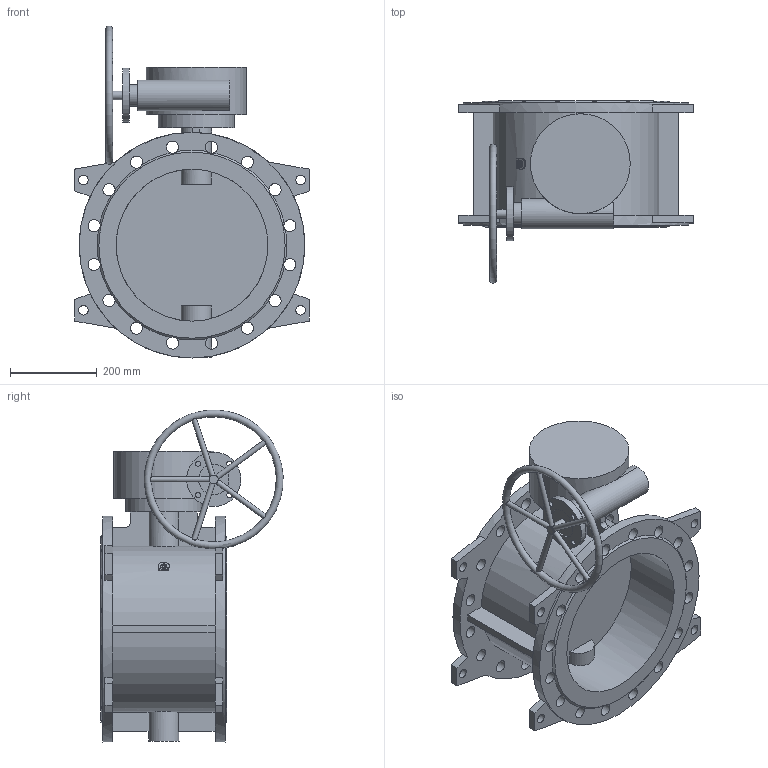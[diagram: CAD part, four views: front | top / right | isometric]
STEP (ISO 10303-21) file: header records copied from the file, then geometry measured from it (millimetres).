
FILE_DESCRIPTION(('STEP AP203'), '1');
FILE_NAME('Çàòâîð 023F.Z DN350 PN16_ìàõ', '', ('UNSPECIFIED'), ('UNSPECIFIED'), 'ASCON STEP Converter 1.6', 'ASCON Math Kernel', '');
FILE_SCHEMA(('CONFIG_CONTROL_DESIGN'));
Length unit declared in the file: millimetre
Bounding box: 540 x 419.87 x 764.86 mm (x, y, z)
Volume: 21635780.6 mm3; surface area: 1777678.2 mm2
Topology: 1 solids, 1 shells, 182 faces, 582 edges, 387 vertices
Faces by surface type: plane 91, cylinder 88, cone 2, torus 1
Full cylindrical faces by diameter (mm): 12 x9, 14 x4, 18 x4, 20 x2, 22 x8, 28 x32, 50 x1, 70 x3, 125 x1, 175 x1, 230 x1, 350 x2, 520 x2
Entity records: 13886 total; most frequent: CARTESIAN_POINT 7332, DIRECTION 1027, ORIENTED_EDGE 1010, EDGE_CURVE 505, AXIS2_PLACEMENT_3D 422, VERTEX_POINT 385, EDGE_LOOP 338, FACE_BOUND 240
